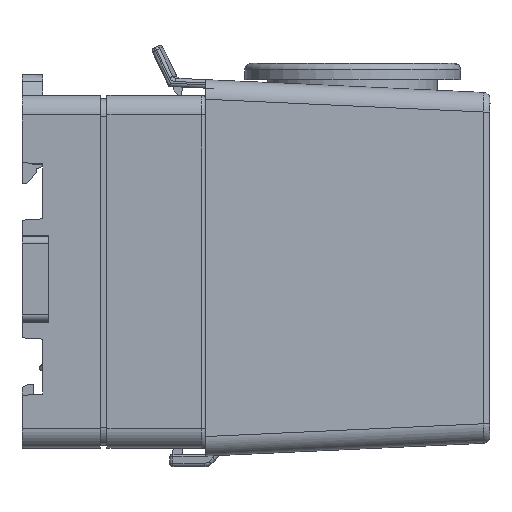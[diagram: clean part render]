
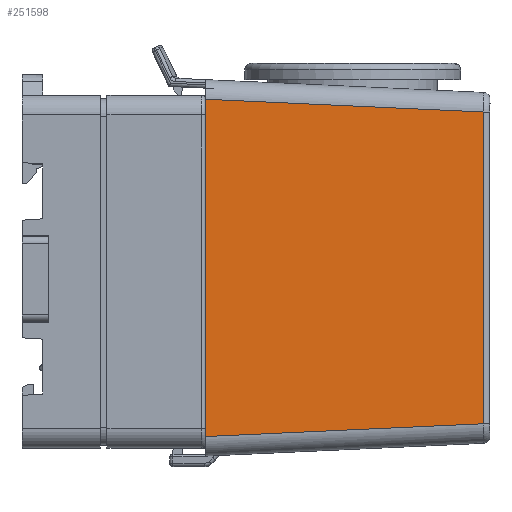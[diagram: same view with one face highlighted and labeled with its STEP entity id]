
A CAD part, front view. The second image highlights one B-rep face of the part: STEP entity #251598.
In plain terms, the highlighted planar face has unit normal (0.046, -0.999, 0) as drawn and (0.999, 0.046, 0) by its records, which use the part's own axes.
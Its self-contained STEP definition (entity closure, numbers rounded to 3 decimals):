
#247388=CARTESIAN_POINT('',(46.5,0.,
26.553));
#248078=CARTESIAN_POINT('',(44.544,42.546,
-23.095));
#248109=DIRECTION('',(0.,0.,1.));
#248110=VECTOR('',#248109,47.692);
#248111=CARTESIAN_POINT('',(44.544,42.546,
-23.095));
#248112=LINE('',#248111,#248110);
#248113=DIRECTION('',(0.046,-0.998,-0.046));
#248114=VECTOR('',#248113,42.636);
#248115=CARTESIAN_POINT('',(44.544,42.546,
-23.095));
#248116=LINE('',#248115,#248114);
#248117=DIRECTION('',(0.,0.,1.));
#248118=VECTOR('',#248117,51.605);
#248119=CARTESIAN_POINT('',(46.5,0.,
-25.052));
#248120=LINE('',#248119,#248118);
#248121=DIRECTION('',(-0.046,0.998,-0.046));
#248122=VECTOR('',#248121,42.636);
#248123=CARTESIAN_POINT('',(46.5,0.,
26.553));
#248124=LINE('',#248123,#248122);
#250064=VERTEX_POINT('',#247388);
#250065=CARTESIAN_POINT('',(46.5,0.,
-25.052));
#250066=VERTEX_POINT('',#250065);
#250237=VERTEX_POINT('',#248078);
#250254=CARTESIAN_POINT('',(44.544,42.546,
24.597));
#250255=VERTEX_POINT('',#250254);
#251586=CARTESIAN_POINT('',(45.5,21.75,0.));
#251587=DIRECTION('',(0.999,0.046,0.));
#251588=DIRECTION('',(0.046,-0.999,0.));
#251589=AXIS2_PLACEMENT_3D('',#251586,#251587,#251588);
#251590=PLANE('',#251589);
#251591=ORIENTED_EDGE('',*,*,#251579,.F.);
#251592=ORIENTED_EDGE('',*,*,#251529,.T.);
#251593=ORIENTED_EDGE('',*,*,#250624,.T.);
#251595=ORIENTED_EDGE('',*,*,#251594,.T.);
#251596=EDGE_LOOP('',(#251591,#251592,#251593,#251595));
#251597=FACE_OUTER_BOUND('',#251596,.F.);
#251598=ADVANCED_FACE('',(#251597),#251590,.T.);
#250624=EDGE_CURVE('',#250066,#250064,#248120,.T.);
#251529=EDGE_CURVE('',#250237,#250066,#248116,.T.);
#251579=EDGE_CURVE('',#250237,#250255,#248112,.T.);
#251594=EDGE_CURVE('',#250064,#250255,#248124,.T.);
